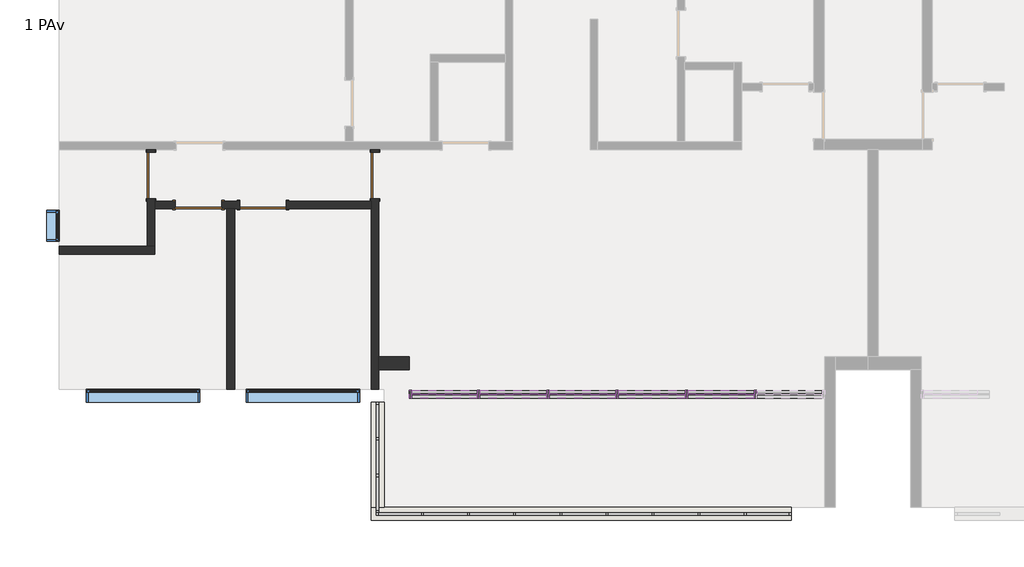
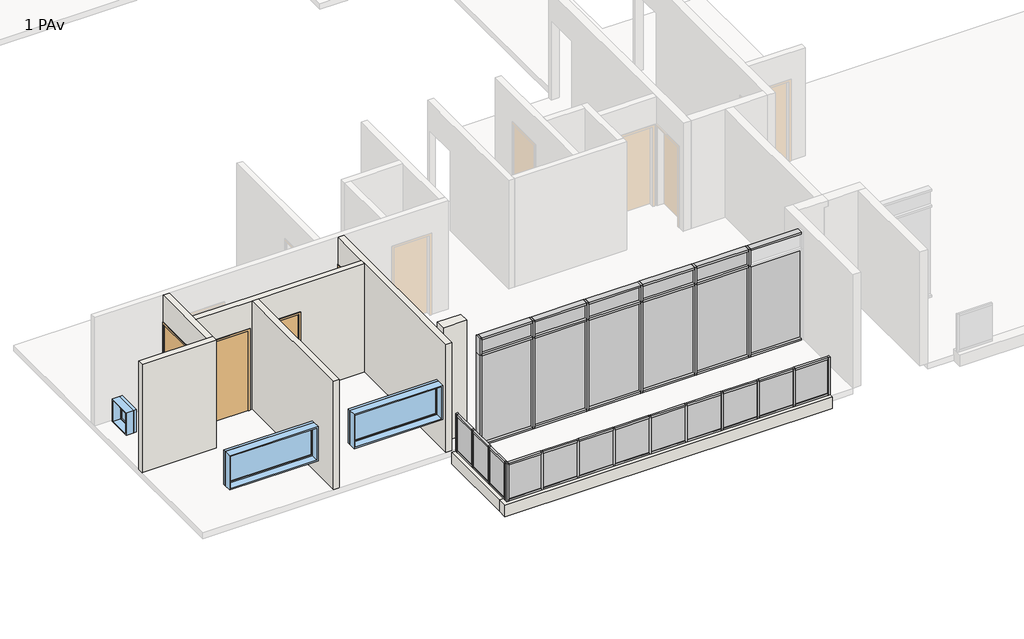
# One storey, part 1 of 6: 67 members, 23 plates, 8 walls, 4 doors, 3 windows.
"""IFC4 building model written with IfcOpenShell, lengths in millimetres."""

from ifc_helpers import new_model, si_unit, frame, origin, place, context, project, spatial, polyline, outline, extrude, faceted_brep, transform, mapped, element, save
from components import door_90_x_210_ee935524, door_90_x_210_565370b3, montante_retangular_50_mm_quadrado_84e40a56, montante_retangular_50_mm_quadrado_3d152aff, montante_retangular_50_mm_quadrado_a01005a4, montante_retangular_50_mm_quadrado_ddd80bd7, montante_retangular_50_mm_quadrado_4acded50, montante_retangular_50_mm_quadrado_237d7072, montante_retangular_50_x_150_mm_6217edde, montante_retangular_50_x_150_mm_a22249d7, montante_retangular_50_x_150_mm_6225e4e3, montante_retangular_50_x_150_mm_567eccab, montante_retangular_50_x_150_mm_1ca2bba2, montante_retangular_50_x_150_mm_6abf4531, montante_retangular_50_x_150_mm_0a8c3443, montante_retangular_50_x_150_mm_662c37b1, painel_do_sistema_0196877a, painel_do_sistema_2aa81470, painel_do_sistema_57ceaf50, painel_do_sistema_ab0ed719, painel_do_sistema_1ecb5f42, painel_do_sistema_49db1829, painel_do_sistema_5ea5287b, painel_do_sistema_7730abee, window_0610_x_0610_mm_da1d4716, window_220_x_90_cea65aae

model = new_model("IFC4")

# Units and contexts
model_context = context("Model", 3, world=origin())
ifc_project = project(units=[si_unit("LENGTHUNIT", "METRE", prefix="MILLI")], contexts=[model_context])

# Site, building, storey
site = spatial("IfcSite", under=ifc_project)
building = spatial("IfcBuilding", under=site)
storey = spatial("IfcBuildingStorey", under=building, Name="1 PAv", Elevation=3000.0)

# Doors
placement = place(None, origin())
door_90_x_210_shape = door_90_x_210_ee935524(model_context)
element("IfcDoor", 1, ObjectType="M_Descarga simples : 90 x 210", at=placement, inside=storey, context=model_context, shape_type="MappedRepresentation", body=[
    mapped(door_90_x_210_shape, transform((-10691.2265742, -8286.3385375, 3000.0), x_axis=(0.0, 1.0, 0.0), y_axis=(-1.0, 0.0, 0.0), z_axis=(0.0, 0.0, 1.0))),
])
element("IfcDoor", 2, ObjectType="M_Descarga simples : 90 x 210", at=placement, inside=storey, context=model_context, shape_type="MappedRepresentation", body=[
    mapped(door_90_x_210_shape, transform((-15041.2265742, -8286.3385375, 3000.0), x_axis=(0.0, 1.0, 0.0), y_axis=(-1.0, 0.0, 0.0), z_axis=(0.0, 0.0, 1.0))),
])
element("IfcDoor", 3, ObjectType="M_Descarga simples : 90 x 210", at=placement, inside=storey, context=model_context, shape_type="MappedRepresentation", body=[
    mapped(door_90_x_210_shape, transform((-12866.2265742, -8861.3385375, 3000.0), x_axis=(-1.0, 0.0, 0.0), y_axis=(0.0, -1.0, 0.0), z_axis=(0.0, 0.0, 1.0))),
])
door_90_x_210_2_shape = door_90_x_210_565370b3(model_context)
element("IfcDoor", 4, ObjectType="M_Descarga simples : 90 x 210", at=placement, inside=storey, context=model_context, shape_type="MappedRepresentation", body=[
    mapped(door_90_x_210_2_shape, transform((-14116.2265742, -8861.3385375, 3000.0), x_axis=(1.0, 0.0, 0.0), y_axis=(0.0, 1.0, 0.0), z_axis=(0.0, 0.0, 1.0))),
])

# Members
montante_retangular_50_mm_quadrado_shape = montante_retangular_50_mm_quadrado_84e40a56(model_context)
element("IfcMember", 5, ObjectType="Montante retangular : 50 mm Quadrado", at=placement, inside=storey, context=model_context, shape_type="MappedRepresentation", body=[
    mapped(montante_retangular_50_mm_quadrado_shape, transform((-3506.2265742, -14856.3385375, 3150.0), x_axis=(-1.0, 0.0, 0.0), y_axis=(0.0, 1.0, 0.0), z_axis=(0.0, 0.0, -1.0))),
])
element("IfcMember", 6, ObjectType="Montante retangular : 50 mm Quadrado", at=placement, inside=storey, context=model_context, shape_type="MappedRepresentation", body=[
    mapped(montante_retangular_50_mm_quadrado_shape, transform((-4401.2265742, -14856.3385375, 3150.0), x_axis=(-1.0, 0.0, 0.0), y_axis=(0.0, 1.0, 0.0), z_axis=(0.0, 0.0, -1.0))),
])
element("IfcMember", 7, ObjectType="Montante retangular : 50 mm Quadrado", at=placement, inside=storey, context=model_context, shape_type="MappedRepresentation", body=[
    mapped(montante_retangular_50_mm_quadrado_shape, transform((-5296.2265742, -14856.3385375, 3150.0), x_axis=(-1.0, 0.0, 0.0), y_axis=(0.0, 1.0, 0.0), z_axis=(0.0, 0.0, -1.0))),
])
element("IfcMember", 8, ObjectType="Montante retangular : 50 mm Quadrado", at=placement, inside=storey, context=model_context, shape_type="MappedRepresentation", body=[
    mapped(montante_retangular_50_mm_quadrado_shape, transform((-6191.2265742, -14856.3385375, 3150.0), x_axis=(-1.0, 0.0, 0.0), y_axis=(0.0, 1.0, 0.0), z_axis=(0.0, 0.0, -1.0))),
])
element("IfcMember", 9, ObjectType="Montante retangular : 50 mm Quadrado", at=placement, inside=storey, context=model_context, shape_type="MappedRepresentation", body=[
    mapped(montante_retangular_50_mm_quadrado_shape, transform((-7086.2265742, -14856.3385375, 3150.0), x_axis=(-1.0, 0.0, 0.0), y_axis=(0.0, 1.0, 0.0), z_axis=(0.0, 0.0, -1.0))),
])
element("IfcMember", 10, ObjectType="Montante retangular : 50 mm Quadrado", at=placement, inside=storey, context=model_context, shape_type="MappedRepresentation", body=[
    mapped(montante_retangular_50_mm_quadrado_shape, transform((-7981.2265742, -14856.3385375, 3150.0), x_axis=(-1.0, 0.0, 0.0), y_axis=(0.0, 1.0, 0.0), z_axis=(0.0, 0.0, -1.0))),
])
element("IfcMember", 11, ObjectType="Montante retangular : 50 mm Quadrado", at=placement, inside=storey, context=model_context, shape_type="MappedRepresentation", body=[
    mapped(montante_retangular_50_mm_quadrado_shape, transform((-8876.2265742, -14856.3385375, 3150.0), x_axis=(-1.0, 0.0, 0.0), y_axis=(0.0, 1.0, 0.0), z_axis=(0.0, 0.0, -1.0))),
])
element("IfcMember", 12, ObjectType="Montante retangular : 50 mm Quadrado", at=placement, inside=storey, context=model_context, shape_type="MappedRepresentation", body=[
    mapped(montante_retangular_50_mm_quadrado_shape, transform((-9771.2265742, -14856.3385375, 3150.0), x_axis=(-1.0, 0.0, 0.0), y_axis=(0.0, 1.0, 0.0), z_axis=(0.0, 0.0, -1.0))),
])
element("IfcMember", 13, ObjectType="Montante retangular : 50 mm Quadrado", at=placement, inside=storey, context=model_context, shape_type="MappedRepresentation", body=[
    mapped(montante_retangular_50_mm_quadrado_shape, transform((-10641.2265742, -14116.3385375, 3150.0), x_axis=(0.0, 1.0, 0.0), y_axis=(1.0, 0.0, 0.0), z_axis=(0.0, 0.0, -1.0))),
])
element("IfcMember", 14, ObjectType="Montante retangular : 50 mm Quadrado", at=placement, inside=storey, context=model_context, shape_type="MappedRepresentation", body=[
    mapped(montante_retangular_50_mm_quadrado_shape, transform((-10641.2265742, -13401.3385375, 3150.0), x_axis=(0.0, 1.0, 0.0), y_axis=(1.0, 0.0, 0.0), z_axis=(0.0, 0.0, -1.0))),
])
montante_retangular_50_mm_quadrado_2_shape = montante_retangular_50_mm_quadrado_3d152aff(model_context)
element("IfcMember", 15, ObjectType="Montante retangular : 50 mm Quadrado", at=placement, inside=storey, context=model_context, shape_type="MappedRepresentation", body=[
    mapped(montante_retangular_50_mm_quadrado_2_shape, transform((-10666.2265742, -14856.3385375, 3150.0), x_axis=(-1.0, 0.0, 0.0), y_axis=(0.0, 1.0, 0.0), z_axis=(0.0, 0.0, -1.0))),
])
element("IfcMember", 16, ObjectType="Montante retangular : 50 mm Quadrado", at=placement, inside=storey, context=model_context, shape_type="MappedRepresentation", body=[
    mapped(montante_retangular_50_mm_quadrado_2_shape, transform((-10641.2265742, -12686.3385375, 3150.0), x_axis=(0.0, 1.0, 0.0), y_axis=(1.0, 0.0, 0.0), z_axis=(0.0, 0.0, -1.0))),
])
element("IfcMember", 17, ObjectType="Montante retangular : 50 mm Quadrado", at=placement, inside=storey, context=model_context, shape_type="MappedRepresentation", body=[
    mapped(montante_retangular_50_mm_quadrado_2_shape, transform((-2611.2265742, -14856.3385375, 4150.0), x_axis=(1.0, 0.0, 0.0), y_axis=(0.0, 1.0, 0.0), z_axis=(0.0, 0.0, 1.0))),
])
element("IfcMember", 18, ObjectType="Montante retangular : 50 mm Quadrado", at=placement, inside=storey, context=model_context, shape_type="MappedRepresentation", body=[
    mapped(montante_retangular_50_mm_quadrado_2_shape, transform((-10641.2265742, -14831.3385375, 4150.0), x_axis=(0.0, -1.0, 0.0), y_axis=(1.0, 0.0, 0.0), z_axis=(0.0, 0.0, 1.0))),
])
montante_retangular_50_mm_quadrado_3_shape = montante_retangular_50_mm_quadrado_a01005a4(model_context)
element("IfcMember", 19, ObjectType="Montante retangular : 50 mm Quadrado", at=placement, inside=storey, context=model_context, shape_type="MappedRepresentation", body=[
    mapped(montante_retangular_50_mm_quadrado_3_shape, transform((-10641.2265742, -12736.3385375, 4150.0), x_axis=(0.0, 0.0, 1.0), y_axis=(1.0, 0.0, 0.0), z_axis=(0.0, 1.0, 0.0))),
])
element("IfcMember", 20, ObjectType="Montante retangular : 50 mm Quadrado", at=placement, inside=storey, context=model_context, shape_type="MappedRepresentation", body=[
    mapped(montante_retangular_50_mm_quadrado_3_shape, transform((-10641.2265742, -14141.3385375, 4150.0), x_axis=(0.0, 0.0, 1.0), y_axis=(1.0, 0.0, 0.0), z_axis=(0.0, 1.0, 0.0))),
])
montante_retangular_50_mm_quadrado_4_shape = montante_retangular_50_mm_quadrado_ddd80bd7(model_context)
element("IfcMember", 21, ObjectType="Montante retangular : 50 mm Quadrado", at=placement, inside=storey, context=model_context, shape_type="MappedRepresentation", body=[
    mapped(montante_retangular_50_mm_quadrado_4_shape, transform((-10641.2265742, -13426.3385375, 4150.0), x_axis=(0.0, 0.0, 1.0), y_axis=(1.0, 0.0, 0.0), z_axis=(0.0, 1.0, 0.0))),
])
element("IfcMember", 22, ObjectType="Montante retangular : 50 mm Quadrado", at=placement, inside=storey, context=model_context, shape_type="MappedRepresentation", body=[
    mapped(montante_retangular_50_mm_quadrado_3_shape, transform((-10641.2265742, -14781.3385375, 3150.0), x_axis=(0.0, 0.0, -1.0), y_axis=(1.0, 0.0, 0.0), z_axis=(0.0, -1.0, 0.0))),
])
element("IfcMember", 23, ObjectType="Montante retangular : 50 mm Quadrado", at=placement, inside=storey, context=model_context, shape_type="MappedRepresentation", body=[
    mapped(montante_retangular_50_mm_quadrado_3_shape, transform((-10641.2265742, -13376.3385375, 3150.0), x_axis=(0.0, 0.0, -1.0), y_axis=(1.0, 0.0, 0.0), z_axis=(0.0, -1.0, 0.0))),
])
element("IfcMember", 24, ObjectType="Montante retangular : 50 mm Quadrado", at=placement, inside=storey, context=model_context, shape_type="MappedRepresentation", body=[
    mapped(montante_retangular_50_mm_quadrado_4_shape, transform((-10641.2265742, -14091.3385375, 3150.0), x_axis=(0.0, 0.0, -1.0), y_axis=(1.0, 0.0, 0.0), z_axis=(0.0, -1.0, 0.0))),
])
montante_retangular_50_mm_quadrado_5_shape = montante_retangular_50_mm_quadrado_4acded50(model_context)
element("IfcMember", 25, ObjectType="Montante retangular : 50 mm Quadrado", at=placement, inside=storey, context=model_context, shape_type="MappedRepresentation", body=[
    mapped(montante_retangular_50_mm_quadrado_5_shape, transform((-10616.2265742, -14856.3385375, 4150.0), x_axis=(0.0, 0.0, 1.0), y_axis=(0.0, 1.0, 0.0), z_axis=(-1.0, 0.0, 0.0))),
])
element("IfcMember", 26, ObjectType="Montante retangular : 50 mm Quadrado", at=placement, inside=storey, context=model_context, shape_type="MappedRepresentation", body=[
    mapped(montante_retangular_50_mm_quadrado_5_shape, transform((-3481.2265742, -14856.3385375, 4150.0), x_axis=(0.0, 0.0, 1.0), y_axis=(0.0, 1.0, 0.0), z_axis=(-1.0, 0.0, 0.0))),
])
montante_retangular_50_mm_quadrado_6_shape = montante_retangular_50_mm_quadrado_237d7072(model_context)
element("IfcMember", 27, ObjectType="Montante retangular : 50 mm Quadrado", at=placement, inside=storey, context=model_context, shape_type="MappedRepresentation", body=[
    mapped(montante_retangular_50_mm_quadrado_6_shape, transform((-4376.2265742, -14856.3385375, 4150.0), x_axis=(0.0, 0.0, 1.0), y_axis=(0.0, 1.0, 0.0), z_axis=(-1.0, 0.0, 0.0))),
])
element("IfcMember", 28, ObjectType="Montante retangular : 50 mm Quadrado", at=placement, inside=storey, context=model_context, shape_type="MappedRepresentation", body=[
    mapped(montante_retangular_50_mm_quadrado_6_shape, transform((-5271.2265742, -14856.3385375, 4150.0), x_axis=(0.0, 0.0, 1.0), y_axis=(0.0, 1.0, 0.0), z_axis=(-1.0, 0.0, 0.0))),
])
element("IfcMember", 29, ObjectType="Montante retangular : 50 mm Quadrado", at=placement, inside=storey, context=model_context, shape_type="MappedRepresentation", body=[
    mapped(montante_retangular_50_mm_quadrado_6_shape, transform((-6166.2265742, -14856.3385375, 4150.0), x_axis=(0.0, 0.0, 1.0), y_axis=(0.0, 1.0, 0.0), z_axis=(-1.0, 0.0, 0.0))),
])
element("IfcMember", 30, ObjectType="Montante retangular : 50 mm Quadrado", at=placement, inside=storey, context=model_context, shape_type="MappedRepresentation", body=[
    mapped(montante_retangular_50_mm_quadrado_6_shape, transform((-7061.2265742, -14856.3385375, 4150.0), x_axis=(0.0, 0.0, 1.0), y_axis=(0.0, 1.0, 0.0), z_axis=(-1.0, 0.0, 0.0))),
])
element("IfcMember", 31, ObjectType="Montante retangular : 50 mm Quadrado", at=placement, inside=storey, context=model_context, shape_type="MappedRepresentation", body=[
    mapped(montante_retangular_50_mm_quadrado_6_shape, transform((-7956.2265742, -14856.3385375, 4150.0), x_axis=(0.0, 0.0, 1.0), y_axis=(0.0, 1.0, 0.0), z_axis=(-1.0, 0.0, 0.0))),
])
element("IfcMember", 32, ObjectType="Montante retangular : 50 mm Quadrado", at=placement, inside=storey, context=model_context, shape_type="MappedRepresentation", body=[
    mapped(montante_retangular_50_mm_quadrado_6_shape, transform((-8851.2265742, -14856.3385375, 4150.0), x_axis=(0.0, 0.0, 1.0), y_axis=(0.0, 1.0, 0.0), z_axis=(-1.0, 0.0, 0.0))),
])
element("IfcMember", 33, ObjectType="Montante retangular : 50 mm Quadrado", at=placement, inside=storey, context=model_context, shape_type="MappedRepresentation", body=[
    mapped(montante_retangular_50_mm_quadrado_6_shape, transform((-9746.2265742, -14856.3385375, 4150.0), x_axis=(0.0, 0.0, 1.0), y_axis=(0.0, 1.0, 0.0), z_axis=(-1.0, 0.0, 0.0))),
])
element("IfcMember", 34, ObjectType="Montante retangular : 50 mm Quadrado", at=placement, inside=storey, context=model_context, shape_type="MappedRepresentation", body=[
    mapped(montante_retangular_50_mm_quadrado_5_shape, transform((-2661.2265742, -14856.3385375, 3150.0), x_axis=(0.0, 0.0, -1.0), y_axis=(0.0, 1.0, 0.0), z_axis=(1.0, 0.0, 0.0))),
])
element("IfcMember", 35, ObjectType="Montante retangular : 50 mm Quadrado", at=placement, inside=storey, context=model_context, shape_type="MappedRepresentation", body=[
    mapped(montante_retangular_50_mm_quadrado_5_shape, transform((-9796.2265742, -14856.3385375, 3150.0), x_axis=(0.0, 0.0, -1.0), y_axis=(0.0, 1.0, 0.0), z_axis=(1.0, 0.0, 0.0))),
])
element("IfcMember", 36, ObjectType="Montante retangular : 50 mm Quadrado", at=placement, inside=storey, context=model_context, shape_type="MappedRepresentation", body=[
    mapped(montante_retangular_50_mm_quadrado_6_shape, transform((-3531.2265742, -14856.3385375, 3150.0), x_axis=(0.0, 0.0, -1.0), y_axis=(0.0, 1.0, 0.0), z_axis=(1.0, 0.0, 0.0))),
])
element("IfcMember", 37, ObjectType="Montante retangular : 50 mm Quadrado", at=placement, inside=storey, context=model_context, shape_type="MappedRepresentation", body=[
    mapped(montante_retangular_50_mm_quadrado_6_shape, transform((-4426.2265742, -14856.3385375, 3150.0), x_axis=(0.0, 0.0, -1.0), y_axis=(0.0, 1.0, 0.0), z_axis=(1.0, 0.0, 0.0))),
])
element("IfcMember", 38, ObjectType="Montante retangular : 50 mm Quadrado", at=placement, inside=storey, context=model_context, shape_type="MappedRepresentation", body=[
    mapped(montante_retangular_50_mm_quadrado_6_shape, transform((-5321.2265742, -14856.3385375, 3150.0), x_axis=(0.0, 0.0, -1.0), y_axis=(0.0, 1.0, 0.0), z_axis=(1.0, 0.0, 0.0))),
])
element("IfcMember", 39, ObjectType="Montante retangular : 50 mm Quadrado", at=placement, inside=storey, context=model_context, shape_type="MappedRepresentation", body=[
    mapped(montante_retangular_50_mm_quadrado_6_shape, transform((-6216.2265742, -14856.3385375, 3150.0), x_axis=(0.0, 0.0, -1.0), y_axis=(0.0, 1.0, 0.0), z_axis=(1.0, 0.0, 0.0))),
])
element("IfcMember", 40, ObjectType="Montante retangular : 50 mm Quadrado", at=placement, inside=storey, context=model_context, shape_type="MappedRepresentation", body=[
    mapped(montante_retangular_50_mm_quadrado_6_shape, transform((-7111.2265742, -14856.3385375, 3150.0), x_axis=(0.0, 0.0, -1.0), y_axis=(0.0, 1.0, 0.0), z_axis=(1.0, 0.0, 0.0))),
])
element("IfcMember", 41, ObjectType="Montante retangular : 50 mm Quadrado", at=placement, inside=storey, context=model_context, shape_type="MappedRepresentation", body=[
    mapped(montante_retangular_50_mm_quadrado_6_shape, transform((-8006.2265742, -14856.3385375, 3150.0), x_axis=(0.0, 0.0, -1.0), y_axis=(0.0, 1.0, 0.0), z_axis=(1.0, 0.0, 0.0))),
])
element("IfcMember", 42, ObjectType="Montante retangular : 50 mm Quadrado", at=placement, inside=storey, context=model_context, shape_type="MappedRepresentation", body=[
    mapped(montante_retangular_50_mm_quadrado_6_shape, transform((-8901.2265742, -14856.3385375, 3150.0), x_axis=(0.0, 0.0, -1.0), y_axis=(0.0, 1.0, 0.0), z_axis=(1.0, 0.0, 0.0))),
])
montante_retangular_50_x_150_mm_shape = montante_retangular_50_x_150_mm_6217edde(model_context)
element("IfcMember", 43, ObjectType="Montante retangular : 50 x 150 mm", at=placement, inside=storey, context=model_context, shape_type="MappedRepresentation", body=[
    mapped(montante_retangular_50_x_150_mm_shape, transform((-2011.2265742, -12536.3385375, 5850.0), x_axis=(0.0, 0.0, 1.0), y_axis=(0.0, -1.0, 0.0), z_axis=(1.0, 0.0, 0.0))),
])
element("IfcMember", 44, ObjectType="Montante retangular : 50 x 150 mm", at=placement, inside=storey, context=model_context, shape_type="MappedRepresentation", body=[
    mapped(montante_retangular_50_x_150_mm_shape, transform((-8707.0599075, -12536.3385375, 5850.0), x_axis=(0.0, 0.0, 1.0), y_axis=(0.0, -1.0, 0.0), z_axis=(1.0, 0.0, 0.0))),
])
montante_retangular_50_x_150_mm_2_shape = montante_retangular_50_x_150_mm_a22249d7(model_context)
element("IfcMember", 45, ObjectType="Montante retangular : 50 x 150 mm", at=placement, inside=storey, context=model_context, shape_type="MappedRepresentation", body=[
    mapped(montante_retangular_50_x_150_mm_2_shape, transform((-7362.8932408, -12536.3385375, 5850.0), x_axis=(0.0, 0.0, 1.0), y_axis=(0.0, -1.0, 0.0), z_axis=(1.0, 0.0, 0.0))),
])
element("IfcMember", 46, ObjectType="Montante retangular : 50 x 150 mm", at=placement, inside=storey, context=model_context, shape_type="MappedRepresentation", body=[
    mapped(montante_retangular_50_x_150_mm_2_shape, transform((-6018.7265742, -12536.3385375, 5850.0), x_axis=(0.0, 0.0, 1.0), y_axis=(0.0, -1.0, 0.0), z_axis=(1.0, 0.0, 0.0))),
])
element("IfcMember", 47, ObjectType="Montante retangular : 50 x 150 mm", at=placement, inside=storey, context=model_context, shape_type="MappedRepresentation", body=[
    mapped(montante_retangular_50_x_150_mm_2_shape, transform((-4674.5599075, -12536.3385375, 5850.0), x_axis=(0.0, 0.0, 1.0), y_axis=(0.0, -1.0, 0.0), z_axis=(1.0, 0.0, 0.0))),
])
element("IfcMember", 48, ObjectType="Montante retangular : 50 x 150 mm", at=placement, inside=storey, context=model_context, shape_type="MappedRepresentation", body=[
    mapped(montante_retangular_50_x_150_mm_2_shape, transform((-3330.3932408, -12536.3385375, 5850.0), x_axis=(0.0, 0.0, 1.0), y_axis=(0.0, -1.0, 0.0), z_axis=(1.0, 0.0, 0.0))),
])
element("IfcMember", 49, ObjectType="Montante retangular : 50 x 150 mm", at=placement, inside=storey, context=model_context, shape_type="MappedRepresentation", body=[
    mapped(montante_retangular_50_x_150_mm_shape, transform((-9976.2265742, -12536.3385375, 3000.0), x_axis=(0.0, 0.0, -1.0), y_axis=(0.0, -1.0, 0.0), z_axis=(-1.0, 0.0, 0.0))),
])
element("IfcMember", 50, ObjectType="Montante retangular : 50 x 150 mm", at=placement, inside=storey, context=model_context, shape_type="MappedRepresentation", body=[
    mapped(montante_retangular_50_x_150_mm_shape, transform((-3280.3932408, -12536.3385375, 3000.0), x_axis=(0.0, 0.0, -1.0), y_axis=(0.0, -1.0, 0.0), z_axis=(-1.0, 0.0, 0.0))),
])
element("IfcMember", 51, ObjectType="Montante retangular : 50 x 150 mm", at=placement, inside=storey, context=model_context, shape_type="MappedRepresentation", body=[
    mapped(montante_retangular_50_x_150_mm_2_shape, transform((-8657.0599075, -12536.3385375, 3000.0), x_axis=(0.0, 0.0, -1.0), y_axis=(0.0, -1.0, 0.0), z_axis=(-1.0, 0.0, 0.0))),
])
element("IfcMember", 52, ObjectType="Montante retangular : 50 x 150 mm", at=placement, inside=storey, context=model_context, shape_type="MappedRepresentation", body=[
    mapped(montante_retangular_50_x_150_mm_2_shape, transform((-7312.8932408, -12536.3385375, 3000.0), x_axis=(0.0, 0.0, -1.0), y_axis=(0.0, -1.0, 0.0), z_axis=(-1.0, 0.0, 0.0))),
])
element("IfcMember", 53, ObjectType="Montante retangular : 50 x 150 mm", at=placement, inside=storey, context=model_context, shape_type="MappedRepresentation", body=[
    mapped(montante_retangular_50_x_150_mm_2_shape, transform((-5968.7265742, -12536.3385375, 3000.0), x_axis=(0.0, 0.0, -1.0), y_axis=(0.0, -1.0, 0.0), z_axis=(-1.0, 0.0, 0.0))),
])
element("IfcMember", 54, ObjectType="Montante retangular : 50 x 150 mm", at=placement, inside=storey, context=model_context, shape_type="MappedRepresentation", body=[
    mapped(montante_retangular_50_x_150_mm_2_shape, transform((-4624.5599075, -12536.3385375, 3000.0), x_axis=(0.0, 0.0, -1.0), y_axis=(0.0, -1.0, 0.0), z_axis=(-1.0, 0.0, 0.0))),
])
montante_retangular_50_x_150_mm_3_shape = montante_retangular_50_x_150_mm_6225e4e3(model_context)
element("IfcMember", 55, ObjectType="Montante retangular : 50 x 150 mm", at=placement, inside=storey, context=model_context, shape_type="MappedRepresentation", body=[
    mapped(montante_retangular_50_x_150_mm_3_shape, transform((-8682.0599075, -12536.3385375, 3000.0), x_axis=(1.0, 0.0, 0.0), y_axis=(0.0, -1.0, 0.0), z_axis=(0.0, 0.0, -1.0))),
])
element("IfcMember", 56, ObjectType="Montante retangular : 50 x 150 mm", at=placement, inside=storey, context=model_context, shape_type="MappedRepresentation", body=[
    mapped(montante_retangular_50_x_150_mm_3_shape, transform((-7337.8932408, -12536.3385375, 3000.0), x_axis=(1.0, 0.0, 0.0), y_axis=(0.0, -1.0, 0.0), z_axis=(0.0, 0.0, -1.0))),
])
element("IfcMember", 57, ObjectType="Montante retangular : 50 x 150 mm", at=placement, inside=storey, context=model_context, shape_type="MappedRepresentation", body=[
    mapped(montante_retangular_50_x_150_mm_3_shape, transform((-5993.7265742, -12536.3385375, 3000.0), x_axis=(1.0, 0.0, 0.0), y_axis=(0.0, -1.0, 0.0), z_axis=(0.0, 0.0, -1.0))),
])
element("IfcMember", 58, ObjectType="Montante retangular : 50 x 150 mm", at=placement, inside=storey, context=model_context, shape_type="MappedRepresentation", body=[
    mapped(montante_retangular_50_x_150_mm_3_shape, transform((-4649.5599075, -12536.3385375, 3000.0), x_axis=(1.0, 0.0, 0.0), y_axis=(0.0, -1.0, 0.0), z_axis=(0.0, 0.0, -1.0))),
])
element("IfcMember", 59, ObjectType="Montante retangular : 50 x 150 mm", at=placement, inside=storey, context=model_context, shape_type="MappedRepresentation", body=[
    mapped(montante_retangular_50_x_150_mm_3_shape, transform((-3305.3932408, -12536.3385375, 3000.0), x_axis=(1.0, 0.0, 0.0), y_axis=(0.0, -1.0, 0.0), z_axis=(0.0, 0.0, -1.0))),
])
montante_retangular_50_x_150_mm_4_shape = montante_retangular_50_x_150_mm_567eccab(model_context)
element("IfcMember", 60, ObjectType="Montante retangular : 50 x 150 mm", at=placement, inside=storey, context=model_context, shape_type="MappedRepresentation", body=[
    mapped(montante_retangular_50_x_150_mm_4_shape, transform((-8682.0599075, -12536.3385375, 5400.0), x_axis=(1.0, 0.0, 0.0), y_axis=(0.0, -1.0, 0.0), z_axis=(0.0, 0.0, -1.0))),
])
element("IfcMember", 61, ObjectType="Montante retangular : 50 x 150 mm", at=placement, inside=storey, context=model_context, shape_type="MappedRepresentation", body=[
    mapped(montante_retangular_50_x_150_mm_4_shape, transform((-7337.8932408, -12536.3385375, 5400.0), x_axis=(1.0, 0.0, 0.0), y_axis=(0.0, -1.0, 0.0), z_axis=(0.0, 0.0, -1.0))),
])
element("IfcMember", 62, ObjectType="Montante retangular : 50 x 150 mm", at=placement, inside=storey, context=model_context, shape_type="MappedRepresentation", body=[
    mapped(montante_retangular_50_x_150_mm_4_shape, transform((-5993.7265742, -12536.3385375, 5400.0), x_axis=(1.0, 0.0, 0.0), y_axis=(0.0, -1.0, 0.0), z_axis=(0.0, 0.0, -1.0))),
])
element("IfcMember", 63, ObjectType="Montante retangular : 50 x 150 mm", at=placement, inside=storey, context=model_context, shape_type="MappedRepresentation", body=[
    mapped(montante_retangular_50_x_150_mm_4_shape, transform((-4649.5599075, -12536.3385375, 5400.0), x_axis=(1.0, 0.0, 0.0), y_axis=(0.0, -1.0, 0.0), z_axis=(0.0, 0.0, -1.0))),
])
element("IfcMember", 64, ObjectType="Montante retangular : 50 x 150 mm", at=placement, inside=storey, context=model_context, shape_type="MappedRepresentation", body=[
    mapped(montante_retangular_50_x_150_mm_4_shape, transform((-3305.3932408, -12536.3385375, 5400.0), x_axis=(1.0, 0.0, 0.0), y_axis=(0.0, -1.0, 0.0), z_axis=(0.0, 0.0, -1.0))),
])
montante_retangular_50_x_150_mm_5_shape = montante_retangular_50_x_150_mm_1ca2bba2(model_context)
element("IfcMember", 65, ObjectType="Montante retangular : 50 x 150 mm", at=placement, inside=storey, context=model_context, shape_type="MappedRepresentation", body=[
    mapped(montante_retangular_50_x_150_mm_5_shape, transform((-8707.0599075, -12536.3385375, 5400.0), x_axis=(0.0, 0.0, 1.0), y_axis=(0.0, -1.0, 0.0), z_axis=(1.0, 0.0, 0.0))),
])
montante_retangular_50_x_150_mm_6_shape = montante_retangular_50_x_150_mm_6abf4531(model_context)
element("IfcMember", 66, ObjectType="Montante retangular : 50 x 150 mm", at=placement, inside=storey, context=model_context, shape_type="MappedRepresentation", body=[
    mapped(montante_retangular_50_x_150_mm_6_shape, transform((-7362.8932408, -12536.3385375, 5400.0), x_axis=(0.0, 0.0, 1.0), y_axis=(0.0, -1.0, 0.0), z_axis=(1.0, 0.0, 0.0))),
])
element("IfcMember", 67, ObjectType="Montante retangular : 50 x 150 mm", at=placement, inside=storey, context=model_context, shape_type="MappedRepresentation", body=[
    mapped(montante_retangular_50_x_150_mm_6_shape, transform((-6018.7265742, -12536.3385375, 5400.0), x_axis=(0.0, 0.0, 1.0), y_axis=(0.0, -1.0, 0.0), z_axis=(1.0, 0.0, 0.0))),
])
element("IfcMember", 68, ObjectType="Montante retangular : 50 x 150 mm", at=placement, inside=storey, context=model_context, shape_type="MappedRepresentation", body=[
    mapped(montante_retangular_50_x_150_mm_6_shape, transform((-4674.5599075, -12536.3385375, 5400.0), x_axis=(0.0, 0.0, 1.0), y_axis=(0.0, -1.0, 0.0), z_axis=(1.0, 0.0, 0.0))),
])
element("IfcMember", 69, ObjectType="Montante retangular : 50 x 150 mm", at=placement, inside=storey, context=model_context, shape_type="MappedRepresentation", body=[
    mapped(montante_retangular_50_x_150_mm_6_shape, transform((-3330.3932408, -12536.3385375, 5400.0), x_axis=(0.0, 0.0, 1.0), y_axis=(0.0, -1.0, 0.0), z_axis=(1.0, 0.0, 0.0))),
])
montante_retangular_50_x_150_mm_7_shape = montante_retangular_50_x_150_mm_0a8c3443(model_context)
element("IfcMember", 70, ObjectType="Montante retangular : 50 x 150 mm", at=placement, inside=storey, context=model_context, shape_type="MappedRepresentation", body=[
    mapped(montante_retangular_50_x_150_mm_7_shape, transform((-10026.2265742, -12536.3385375, 5850.0), x_axis=(-1.0, 0.0, 0.0), y_axis=(0.0, -1.0, 0.0), z_axis=(0.0, 0.0, 1.0))),
])
montante_retangular_50_x_150_mm_8_shape = montante_retangular_50_x_150_mm_662c37b1(model_context)
element("IfcMember", 71, ObjectType="Montante retangular : 50 x 150 mm", at=placement, inside=storey, context=model_context, shape_type="MappedRepresentation", body=[
    mapped(montante_retangular_50_x_150_mm_8_shape, transform((-10026.2265742, -12536.3385375, 5400.0), x_axis=(-1.0, 0.0, 0.0), y_axis=(0.0, -1.0, 0.0), z_axis=(0.0, 0.0, 1.0))),
])

# Plates
painel_do_sistema_shape = painel_do_sistema_0196877a(model_context)
element("IfcPlate", 72, ObjectType="Painel do sistema : Envidraçado", at=placement, inside=storey, context=model_context, shape_type="MappedRepresentation", body=[
    mapped(painel_do_sistema_shape, transform((-10641.2265742, -14461.3385375, 3200.0), x_axis=(0.0, 1.0, 0.0), y_axis=(-1.0, 0.0, 0.0), z_axis=(0.0, 0.0, 1.0))),
])
element("IfcPlate", 73, ObjectType="Painel do sistema : Envidraçado", at=placement, inside=storey, context=model_context, shape_type="MappedRepresentation", body=[
    mapped(painel_do_sistema_shape, transform((-10641.2265742, -13056.3385375, 3200.0), x_axis=(0.0, 1.0, 0.0), y_axis=(-1.0, 0.0, 0.0), z_axis=(0.0, 0.0, 1.0))),
])
painel_do_sistema_2_shape = painel_do_sistema_2aa81470(model_context)
element("IfcPlate", 74, ObjectType="Painel do sistema : Envidraçado", at=placement, inside=storey, context=model_context, shape_type="MappedRepresentation", body=[
    mapped(painel_do_sistema_2_shape, transform((-10641.2265742, -13758.8385375, 3200.0), x_axis=(0.0, 1.0, 0.0), y_axis=(-1.0, 0.0, 0.0), z_axis=(0.0, 0.0, 1.0))),
])
painel_do_sistema_3_shape = painel_do_sistema_57ceaf50(model_context)
element("IfcPlate", 75, ObjectType="Painel do sistema : Envidraçado", at=placement, inside=storey, context=model_context, shape_type="MappedRepresentation", body=[
    mapped(painel_do_sistema_3_shape, transform((-3071.2265742, -14856.3385375, 3200.0), x_axis=(-1.0, 0.0, 0.0), y_axis=(0.0, -1.0, 0.0), z_axis=(0.0, 0.0, 1.0))),
])
element("IfcPlate", 76, ObjectType="Painel do sistema : Envidraçado", at=placement, inside=storey, context=model_context, shape_type="MappedRepresentation", body=[
    mapped(painel_do_sistema_3_shape, transform((-10206.2265742, -14856.3385375, 3200.0), x_axis=(-1.0, 0.0, 0.0), y_axis=(0.0, -1.0, 0.0), z_axis=(0.0, 0.0, 1.0))),
])
painel_do_sistema_4_shape = painel_do_sistema_ab0ed719(model_context)
element("IfcPlate", 77, ObjectType="Painel do sistema : Envidraçado", at=placement, inside=storey, context=model_context, shape_type="MappedRepresentation", body=[
    mapped(painel_do_sistema_4_shape, transform((-3953.7265742, -14856.3385375, 3200.0), x_axis=(-1.0, 0.0, 0.0), y_axis=(0.0, -1.0, 0.0), z_axis=(0.0, 0.0, 1.0))),
])
element("IfcPlate", 78, ObjectType="Painel do sistema : Envidraçado", at=placement, inside=storey, context=model_context, shape_type="MappedRepresentation", body=[
    mapped(painel_do_sistema_4_shape, transform((-4848.7265742, -14856.3385375, 3200.0), x_axis=(-1.0, 0.0, 0.0), y_axis=(0.0, -1.0, 0.0), z_axis=(0.0, 0.0, 1.0))),
])
element("IfcPlate", 79, ObjectType="Painel do sistema : Envidraçado", at=placement, inside=storey, context=model_context, shape_type="MappedRepresentation", body=[
    mapped(painel_do_sistema_4_shape, transform((-5743.7265742, -14856.3385375, 3200.0), x_axis=(-1.0, 0.0, 0.0), y_axis=(0.0, -1.0, 0.0), z_axis=(0.0, 0.0, 1.0))),
])
element("IfcPlate", 80, ObjectType="Painel do sistema : Envidraçado", at=placement, inside=storey, context=model_context, shape_type="MappedRepresentation", body=[
    mapped(painel_do_sistema_4_shape, transform((-6638.7265742, -14856.3385375, 3200.0), x_axis=(-1.0, 0.0, 0.0), y_axis=(0.0, -1.0, 0.0), z_axis=(0.0, 0.0, 1.0))),
])
element("IfcPlate", 81, ObjectType="Painel do sistema : Envidraçado", at=placement, inside=storey, context=model_context, shape_type="MappedRepresentation", body=[
    mapped(painel_do_sistema_4_shape, transform((-7533.7265742, -14856.3385375, 3200.0), x_axis=(-1.0, 0.0, 0.0), y_axis=(0.0, -1.0, 0.0), z_axis=(0.0, 0.0, 1.0))),
])
element("IfcPlate", 82, ObjectType="Painel do sistema : Envidraçado", at=placement, inside=storey, context=model_context, shape_type="MappedRepresentation", body=[
    mapped(painel_do_sistema_4_shape, transform((-8428.7265742, -14856.3385375, 3200.0), x_axis=(-1.0, 0.0, 0.0), y_axis=(0.0, -1.0, 0.0), z_axis=(0.0, 0.0, 1.0))),
])
element("IfcPlate", 83, ObjectType="Painel do sistema : Envidraçado", at=placement, inside=storey, context=model_context, shape_type="MappedRepresentation", body=[
    mapped(painel_do_sistema_4_shape, transform((-9323.7265742, -14856.3385375, 3200.0), x_axis=(-1.0, 0.0, 0.0), y_axis=(0.0, -1.0, 0.0), z_axis=(0.0, 0.0, 1.0))),
])
painel_do_sistema_5_shape = painel_do_sistema_1ecb5f42(model_context)
element("IfcPlate", 84, ObjectType="Painel do sistema : Envidraçado", at=placement, inside=storey, context=model_context, shape_type="MappedRepresentation", body=[
    mapped(painel_do_sistema_5_shape, transform((-9341.6432408, -12536.3385375, 3050.0), x_axis=(1.0, 0.0, 0.0), y_axis=(0.0, 1.0, 0.0), z_axis=(0.0, 0.0, 1.0))),
])
element("IfcPlate", 85, ObjectType="Painel do sistema : Envidraçado", at=placement, inside=storey, context=model_context, shape_type="MappedRepresentation", body=[
    mapped(painel_do_sistema_5_shape, transform((-2645.8099075, -12536.3385375, 3050.0), x_axis=(1.0, 0.0, 0.0), y_axis=(0.0, 1.0, 0.0), z_axis=(0.0, 0.0, 1.0))),
])
painel_do_sistema_6_shape = painel_do_sistema_49db1829(model_context)
element("IfcPlate", 86, ObjectType="Painel do sistema : Envidraçado", at=placement, inside=storey, context=model_context, shape_type="MappedRepresentation", body=[
    mapped(painel_do_sistema_6_shape, transform((-8009.9765742, -12536.3385375, 3050.0), x_axis=(1.0, 0.0, 0.0), y_axis=(0.0, 1.0, 0.0), z_axis=(0.0, 0.0, 1.0))),
])
element("IfcPlate", 87, ObjectType="Painel do sistema : Envidraçado", at=placement, inside=storey, context=model_context, shape_type="MappedRepresentation", body=[
    mapped(painel_do_sistema_6_shape, transform((-6665.8099075, -12536.3385375, 3050.0), x_axis=(1.0, 0.0, 0.0), y_axis=(0.0, 1.0, 0.0), z_axis=(0.0, 0.0, 1.0))),
])
element("IfcPlate", 88, ObjectType="Painel do sistema : Envidraçado", at=placement, inside=storey, context=model_context, shape_type="MappedRepresentation", body=[
    mapped(painel_do_sistema_6_shape, transform((-5321.6432408, -12536.3385375, 3050.0), x_axis=(1.0, 0.0, 0.0), y_axis=(0.0, 1.0, 0.0), z_axis=(0.0, 0.0, 1.0))),
])
element("IfcPlate", 89, ObjectType="Painel do sistema : Envidraçado", at=placement, inside=storey, context=model_context, shape_type="MappedRepresentation", body=[
    mapped(painel_do_sistema_6_shape, transform((-3977.4765742, -12536.3385375, 3050.0), x_axis=(1.0, 0.0, 0.0), y_axis=(0.0, 1.0, 0.0), z_axis=(0.0, 0.0, 1.0))),
])
painel_do_sistema_7_shape = painel_do_sistema_5ea5287b(model_context)
element("IfcPlate", 90, ObjectType="Painel do sistema : Envidraçado", at=placement, inside=storey, context=model_context, shape_type="MappedRepresentation", body=[
    mapped(painel_do_sistema_7_shape, transform((-9341.6432408, -12536.3385375, 5425.0), x_axis=(1.0, 0.0, 0.0), y_axis=(0.0, 1.0, 0.0), z_axis=(0.0, 0.0, 1.0))),
])
painel_do_sistema_8_shape = painel_do_sistema_7730abee(model_context)
element("IfcPlate", 91, ObjectType="Painel do sistema : Envidraçado", at=placement, inside=storey, context=model_context, shape_type="MappedRepresentation", body=[
    mapped(painel_do_sistema_8_shape, transform((-8009.9765742, -12536.3385375, 5425.0), x_axis=(1.0, 0.0, 0.0), y_axis=(0.0, 1.0, 0.0), z_axis=(0.0, 0.0, 1.0))),
])
element("IfcPlate", 92, ObjectType="Painel do sistema : Envidraçado", at=placement, inside=storey, context=model_context, shape_type="MappedRepresentation", body=[
    mapped(painel_do_sistema_8_shape, transform((-6665.8099075, -12536.3385375, 5425.0), x_axis=(1.0, 0.0, 0.0), y_axis=(0.0, 1.0, 0.0), z_axis=(0.0, 0.0, 1.0))),
])
element("IfcPlate", 93, ObjectType="Painel do sistema : Envidraçado", at=placement, inside=storey, context=model_context, shape_type="MappedRepresentation", body=[
    mapped(painel_do_sistema_8_shape, transform((-5321.6432408, -12536.3385375, 5425.0), x_axis=(1.0, 0.0, 0.0), y_axis=(0.0, 1.0, 0.0), z_axis=(0.0, 0.0, 1.0))),
])
element("IfcPlate", 94, ObjectType="Painel do sistema : Envidraçado", at=placement, inside=storey, context=model_context, shape_type="MappedRepresentation", body=[
    mapped(painel_do_sistema_8_shape, transform((-3977.4765742, -12536.3385375, 5425.0), x_axis=(1.0, 0.0, 0.0), y_axis=(0.0, 1.0, 0.0), z_axis=(0.0, 0.0, 1.0))),
])

# Walls
element("IfcWall", 95, ObjectType="Exeterna 25", at=placement, inside=storey, context=model_context, shape_type="Brep", body=[
    faceted_brep([(-2611.2265742, -14731.3385375, 2850.0), (-10516.2265742, -14731.3385375, 2850.0), (-10766.2265742, -14731.3385375, 2850.0), (-10766.2265742, -14731.3385375, 3150.0), (-10516.2265742, -14731.3385375, 3150.0), (-2611.2265742, -14731.3385375, 3150.0), (-2611.2265742, -14981.3385375, 2850.0), (-2611.2265742, -14981.3385375, 3150.0), (-10766.2265742, -14981.3385375, 3150.0), (-10766.2265742, -14981.3385375, 2850.0)], [[[0, 1, 2, 3, 4, 5]], [[6, 7, 8, 9]], [[2, 1, 0, 6, 9]], [[5, 4, 3, 8, 7]], [[0, 5, 7, 6]], [[3, 2, 9, 8]]]),
])
element("IfcWall", 96, ObjectType="Exeterna 25", at=placement, inside=storey, context=model_context, shape_type="Brep", body=[
    faceted_brep([(-10516.2265742, -14731.3385375, 2850.0), (-10516.2265742, -12686.3385375, 2850.0), (-10516.2265742, -12686.3385375, 3000.0), (-10516.2265742, -12686.3385375, 3150.0), (-10516.2265742, -14731.3385375, 3150.0), (-10516.2265742, -14731.3385375, 3000.0), (-10766.2265742, -12686.3385375, 2850.0), (-10766.2265742, -14731.3385375, 2850.0), (-10766.2265742, -14731.3385375, 3150.0), (-10766.2265742, -12686.3385375, 3150.0)], [[[0, 1, 2, 3, 4, 5]], [[6, 7, 8, 9]], [[1, 0, 7, 6]], [[4, 3, 9, 8]], [[4, 8, 7, 0, 5]], [[1, 6, 9, 3, 2]]]),
])
element("IfcWall", 97, ObjectType="Exeterna 25", at=placement, inside=storey, context=model_context, shape_type="SweptSolid", body=[
    extrude(outline(polyline([(-10616.2265742, -11806.3385375), (-10026.2265742, -11806.3385375), (-10026.2265742, -12056.3385375), (-10616.2265742, -12056.3385375), (-10616.2265742, -11806.3385375)])), frame((0.0, 0.0, 3000.0), z_axis=(0.0, 0.0, 1.0), x_axis=(1.0, 0.0, 0.0)), (0.0, 0.0, 1.0), 3000.0),
])
element("IfcWall", 98, ObjectType="Interna 15", at=placement, inside=storey, context=model_context, shape_type="Brep", body=[
    faceted_brep([(-10616.2265742, -7836.3385375, 5100.0), (-10616.2265742, -7836.3385375, 3000.0), (-10616.2265742, -7786.3385375, 3000.0), (-10616.2265742, -7786.3385375, 5850.0), (-10616.2265742, -12436.3385375, 5850.0), (-10616.2265742, -12436.3385375, 3000.0), (-10616.2265742, -12056.3385375, 3000.0), (-10616.2265742, -11806.3385375, 3000.0), (-10616.2265742, -8736.3385375, 3000.0), (-10616.2265742, -8736.3385375, 5100.0), (-10766.2265742, -7786.3385375, 3000.0), (-10766.2265742, -7836.3385375, 3000.0), (-10766.2265742, -7836.3385375, 5100.0), (-10766.2265742, -8736.3385375, 5100.0), (-10766.2265742, -8736.3385375, 3000.0), (-10766.2265742, -8786.3385375, 3000.0), (-10766.2265742, -8936.3385375, 3000.0), (-10766.2265742, -12436.3385375, 3000.0), (-10766.2265742, -12436.3385375, 5850.0), (-10766.2265742, -8936.3385375, 5850.0), (-10766.2265742, -8786.3385375, 5850.0), (-10766.2265742, -7786.3385375, 5850.0)], [[[0, 1, 2, 3, 4, 5, 6, 7, 8, 9]], [[10, 11, 12, 13, 14, 15, 16, 17, 18, 19, 20, 21]], [[2, 1, 11, 10]], [[8, 7, 6, 5, 17, 16, 15, 14]], [[4, 3, 21, 20, 19, 18]], [[3, 2, 10, 21]], [[5, 4, 18, 17]], [[12, 11, 1, 0]], [[13, 12, 0, 9]], [[14, 13, 9, 8]]]),
])
element("IfcWall", 99, ObjectType="Interna 15", at=placement, inside=storey, context=model_context, shape_type="Brep", body=[
    faceted_brep([(-13316.2265742, -8786.3385375, 3000.0), (-13666.2265742, -8786.3385375, 3000.0), (-13666.2265742, -8786.3385375, 5100.0), (-14566.2265742, -8786.3385375, 5100.0), (-14566.2265742, -8786.3385375, 3000.0), (-14966.2265742, -8786.3385375, 3000.0), (-14966.2265742, -8786.3385375, 5850.0), (-10766.2265742, -8786.3385375, 5850.0), (-10766.2265742, -8786.3385375, 3000.0), (-12416.2265742, -8786.3385375, 3000.0), (-12416.2265742, -8786.3385375, 5100.0), (-13316.2265742, -8786.3385375, 5100.0), (-13666.2265742, -8936.3385375, 5100.0), (-13666.2265742, -8936.3385375, 3000.0), (-13566.2265742, -8936.3385375, 3000.0), (-13416.2265742, -8936.3385375, 3000.0), (-13316.2265742, -8936.3385375, 3000.0), (-13316.2265742, -8936.3385375, 5100.0), (-12416.2265742, -8936.3385375, 5100.0), (-12416.2265742, -8936.3385375, 3000.0), (-10766.2265742, -8936.3385375, 3000.0), (-10766.2265742, -8936.3385375, 5850.0), (-13416.2265742, -8936.3385375, 5850.0), (-13566.2265742, -8936.3385375, 5850.0), (-14966.2265742, -8936.3385375, 5850.0), (-14966.2265742, -8936.3385375, 3000.0), (-14566.2265742, -8936.3385375, 3000.0), (-14566.2265742, -8936.3385375, 5100.0)], [[[0, 1, 2, 3, 4, 5, 6, 7, 8, 9, 10, 11]], [[12, 13, 14, 15, 16, 17, 18, 19, 20, 21, 22, 23, 24, 25, 26, 27]], [[9, 8, 20, 19]], [[26, 25, 5, 4]], [[16, 15, 14, 13, 1, 0]], [[7, 6, 24, 23, 22, 21]], [[8, 7, 21, 20]], [[6, 5, 25, 24]], [[17, 16, 0, 11]], [[18, 17, 11, 10]], [[19, 18, 10, 9]], [[2, 1, 13, 12]], [[3, 2, 12, 27]], [[4, 3, 27, 26]]]),
])
element("IfcWall", 100, ObjectType="Interna 15", at=placement, inside=storey, context=model_context, shape_type="SweptSolid", body=[
    extrude(outline(polyline([(-13566.2265742, -12436.3385375), (-13566.2265742, -8936.3385375), (-13416.2265742, -8936.3385375), (-13416.2265742, -12436.3385375), (-13566.2265742, -12436.3385375)])), frame((0.0, 0.0, 3000.0), z_axis=(0.0, 0.0, 1.0), x_axis=(1.0, 0.0, 0.0)), (0.0, 0.0, 1.0), 2850.0),
])
element("IfcWall", 101, ObjectType="Interna 15", at=placement, inside=storey, context=model_context, shape_type="Brep", body=[
    faceted_brep([(-16816.2265742, -9816.3385375, 3000.0), (-14966.2265742, -9816.3385375, 3000.0), (-14966.2265742, -9816.3385375, 5850.0), (-16816.2265742, -9816.3385375, 5850.0), (-16816.2265742, -9666.3385375, 3000.0), (-16816.2265742, -9666.3385375, 5850.0), (-15116.2265742, -9666.3385375, 5850.0), (-14966.2265742, -9666.3385375, 5850.0), (-14966.2265742, -9666.3385375, 3000.0), (-15116.2265742, -9666.3385375, 3000.0)], [[[0, 1, 2, 3]], [[4, 5, 6, 7, 8, 9]], [[1, 0, 4, 9, 8]], [[3, 2, 7, 6, 5]], [[0, 3, 5, 4]], [[2, 1, 8, 7]]]),
])
element("IfcWall", 102, ObjectType="Interna 15", at=placement, inside=storey, context=model_context, shape_type="Brep", body=[
    faceted_brep([(-14966.2265742, -7836.3385375, 5100.0), (-14966.2265742, -7836.3385375, 3000.0), (-14966.2265742, -7786.3385375, 3000.0), (-14966.2265742, -7786.3385375, 5850.0), (-14966.2265742, -8786.3385375, 5850.0), (-14966.2265742, -8936.3385375, 5850.0), (-14966.2265742, -9666.3385375, 5850.0), (-14966.2265742, -9666.3385375, 3000.0), (-14966.2265742, -8936.3385375, 3000.0), (-14966.2265742, -8786.3385375, 3000.0), (-14966.2265742, -8736.3385375, 3000.0), (-14966.2265742, -8736.3385375, 5100.0), (-15116.2265742, -7786.3385375, 3000.0), (-15116.2265742, -7836.3385375, 3000.0), (-15116.2265742, -7836.3385375, 5100.0), (-15116.2265742, -8736.3385375, 5100.0), (-15116.2265742, -8736.3385375, 3000.0), (-15116.2265742, -9666.3385375, 3000.0), (-15116.2265742, -9666.3385375, 5850.0), (-15116.2265742, -7786.3385375, 5850.0)], [[[0, 1, 2, 3, 4, 5, 6, 7, 8, 9, 10, 11]], [[12, 13, 14, 15, 16, 17, 18, 19]], [[2, 1, 13, 12]], [[10, 9, 8, 7, 17, 16]], [[6, 5, 4, 3, 19, 18]], [[3, 2, 12, 19]], [[7, 6, 18, 17]], [[14, 13, 1, 0]], [[15, 14, 0, 11]], [[16, 15, 11, 10]]]),
])

# Windows
window_0610_x_0610_mm_shape = window_0610_x_0610_mm_da1d4716(model_context)
element("IfcWindow", 103, ObjectType="M_Fixado : 0610 x 0610 mm", at=placement, inside=storey, context=model_context, shape_type="MappedRepresentation", body=[
    mapped(window_0610_x_0610_mm_shape, transform((-16954.2265742, -9266.3385375, 3000.0), x_axis=(0.0, -1.0, 0.0), y_axis=(1.0, 0.0, 0.0), z_axis=(0.0, 0.0, 1.0))),
])
window_220_x_90_shape = window_220_x_90_cea65aae(model_context)
element("IfcWindow", 104, ObjectType="M_Fixado : 220 x 90", at=placement, inside=storey, context=model_context, shape_type="MappedRepresentation", body=[
    mapped(window_220_x_90_shape, transform((-12091.2265742, -12574.3385375, 3185.0), x_axis=(1.0, 0.0, 0.0), y_axis=(0.0, 1.0, 0.0), z_axis=(0.0, 0.0, 1.0))),
])
element("IfcWindow", 105, ObjectType="M_Fixado : 220 x 90", at=placement, inside=storey, context=model_context, shape_type="MappedRepresentation", body=[
    mapped(window_220_x_90_shape, transform((-15191.2265742, -12574.3385375, 3185.0), x_axis=(1.0, 0.0, 0.0), y_axis=(0.0, 1.0, 0.0), z_axis=(0.0, 0.0, 1.0))),
])

save(model, "model.ifc")
